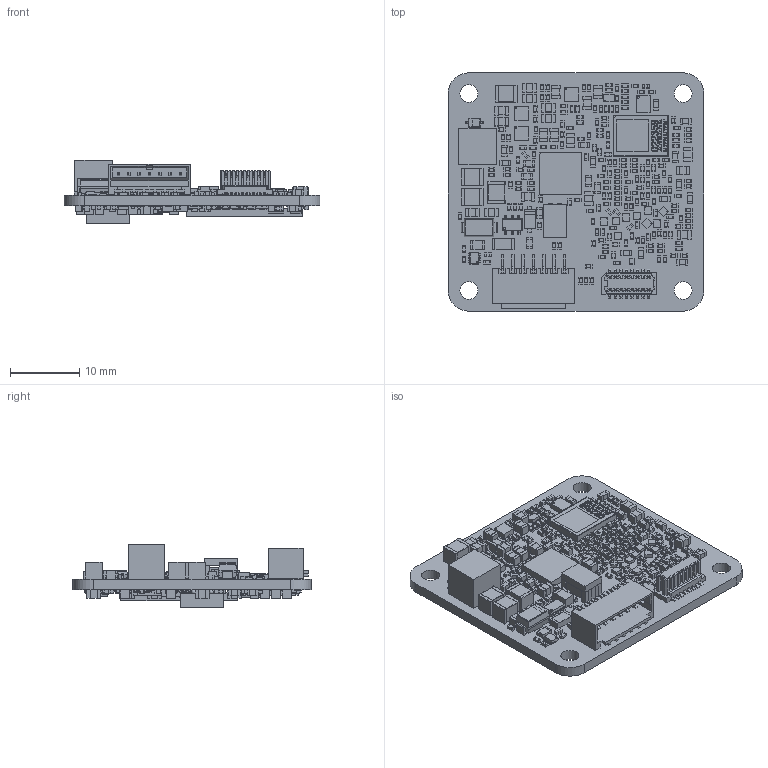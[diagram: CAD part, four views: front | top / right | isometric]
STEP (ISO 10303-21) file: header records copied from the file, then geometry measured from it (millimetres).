
FILE_DESCRIPTION(/* description */ ('VX1621A XPOD (DAP)'),/* implementation_level */ '2;1');
FILE_NAME(/* name */ 'C:\Users\TeamCenterSystem\Documents\Inventor\GRP_000334_CUST_iam.STP',/* time_stamp */ '2024-07-22T11:12:08+02:00',/* author */ ('vista'),/* organization */ (''),/* preprocessor_version */ 'ST-DEVELOPER v18.1',/* originating_system */ 'Autodesk Inventor 2022',/* authorisation */ '');
FILE_SCHEMA (('AUTOMOTIVE_DESIGN { 1 0 10303 214 3 1 1 }'));
Products named in the file (4): GRP_000334_CUST; GRP_000334; ASY_000386; LBL_000161
Assembly tree (3 placements, depth 3):
  GRP_000334_CUST
    GRP_000334
      ASY_000386
      LBL_000161
Bounding box: 37 x 34.5 x 9.24 mm (x, y, z)
Volume: 3202.6 mm3; surface area: 7175 mm2
Topology: 579 solids, 580 shells, 12891 faces, 31266 edges, 20211 vertices
Faces by surface type: plane 12406, cylinder 359, bspline 64, sphere 62
Full cylindrical faces by diameter (mm): 0.125 x13, 0.14 x3, 0.15 x5, 0.2 x1, 0.25 x4, 0.262 x4, 0.781 x1, 0.8 x24, 2.6 x4
Entity records: 371971 total; most frequent: CARTESIAN_POINT 65123, ORIENTED_EDGE 62369, DIRECTION 57484, EDGE_CURVE 31185, LINE 30298, VECTOR 30298, VERTEX_POINT 20212, EDGE_LOOP 13676
